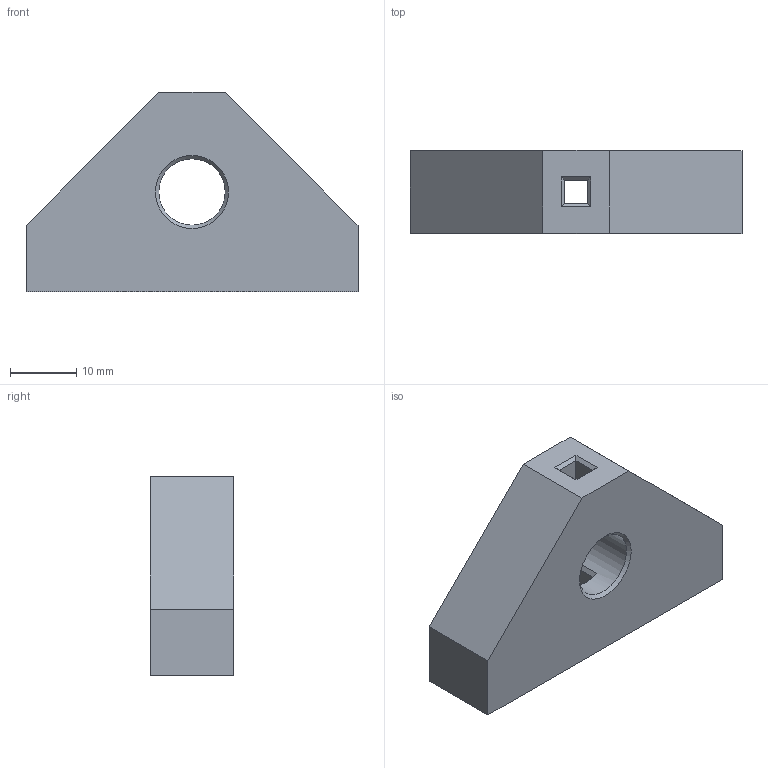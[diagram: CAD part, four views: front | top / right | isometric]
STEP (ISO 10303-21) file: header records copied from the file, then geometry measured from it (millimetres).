
FILE_DESCRIPTION(('FreeCAD Model'),'2;1');
FILE_NAME('Open CASCADE Shape Model','2025-11-08T12:07:49',(''),(''), 'Open CASCADE STEP processor 7.8','FreeCAD','Unknown');
FILE_SCHEMA(('AUTOMOTIVE_DESIGN { 1 0 10303 214 1 1 1 1 }'));
Length unit declared in the file: millimetre
Products named in the file (1): Main Block Body
Bounding box: 50 x 12.5 x 30 mm (x, y, z)
Volume: 12505.1 mm3; surface area: 4348.6 mm2
Topology: 1 solids, 1 shells, 35 faces, 89 edges, 56 vertices
Faces by surface type: plane 28, cone 6, cylinder 1
Full cylindrical faces by diameter (mm): 10 x1
Entity records: 2318 total; most frequent: CARTESIAN_POINT 519, DIRECTION 323, LINE 201, VECTOR 201, ORIENTED_EDGE 178, PCURVE 178, DEFINITIONAL_REPRESENTATION 178, EDGE_CURVE 89
